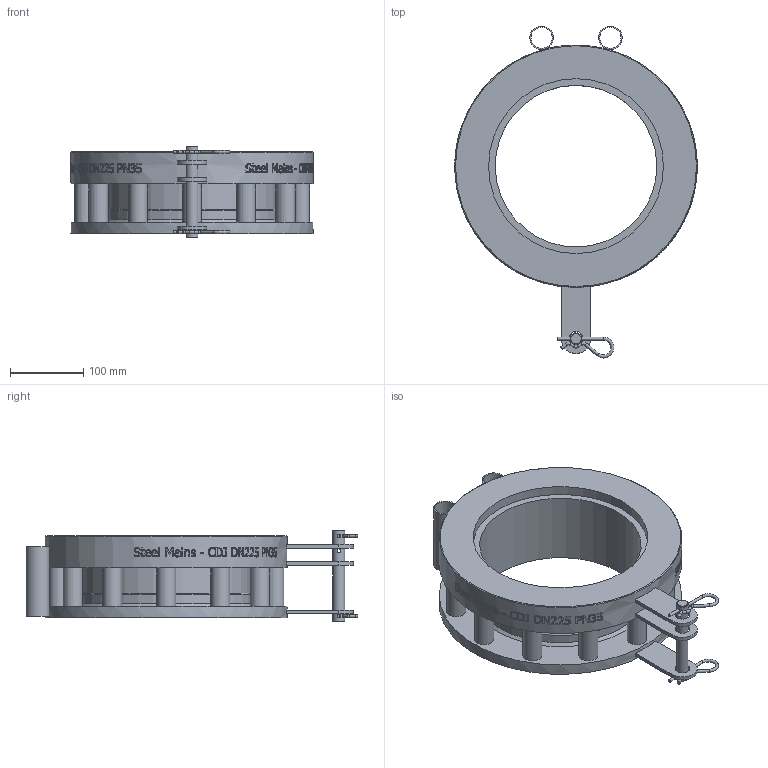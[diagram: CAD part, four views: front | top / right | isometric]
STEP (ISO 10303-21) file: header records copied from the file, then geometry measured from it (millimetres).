
FILE_DESCRIPTION(/* description */ (''),/* implementation_level */ '2;1');
FILE_NAME(/* name */ 'C:\Vault\Designs\Somerton\196\196-30 Models\Marketing Files\SteelMains - CDJ DN225 PN35 - (196-30T rev B).stp',/* time_stamp */ '2025-09-25T16:09:27+10:00',/* author */ ('Sam.Cavallaro'),/* organization */ (''),/* preprocessor_version */ 'ST-DEVELOPER v18.1',/* originating_system */ 'Autodesk Inventor 2021',/* authorisation */ '');
FILE_SCHEMA (('AUTOMOTIVE_DESIGN { 1 0 10303 214 3 1 1 }'));
Length unit declared in the file: millimetre
Products named in the file (1): SPS_ENG-084768
Bounding box: 330 x 451.77 x 125 mm (x, y, z)
Volume: 3435847.5 mm3; surface area: 466239.4 mm2
Topology: 6 solids, 6 shells, 859 faces, 2359 edges, 1574 vertices
Faces by surface type: bspline 410, plane 331, cylinder 105, torus 8, cone 5
Full cylindrical faces by diameter (mm): 4 x10, 5 x3, 16 x1, 20 x3, 26 x12, 28.8 x2, 32 x2, 220 x1, 232 x1, 236 x1, 238 x1, 330 x1
Entity records: 38069 total; most frequent: CARTESIAN_POINT 18363, ORIENTED_EDGE 4724, DIRECTION 2835, EDGE_CURVE 2362, VERTEX_POINT 1577, LINE 1105, VECTOR 1105, EDGE_LOOP 963
